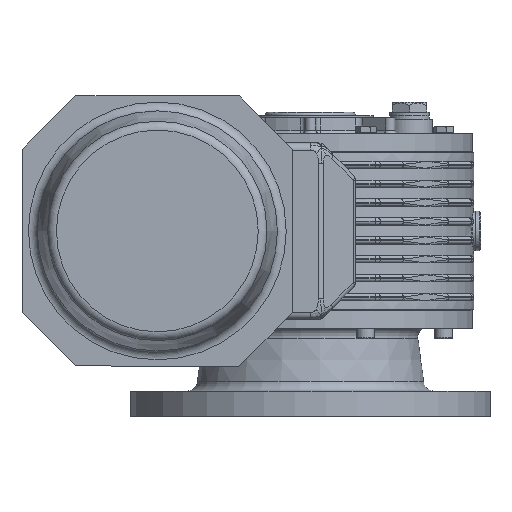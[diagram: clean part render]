
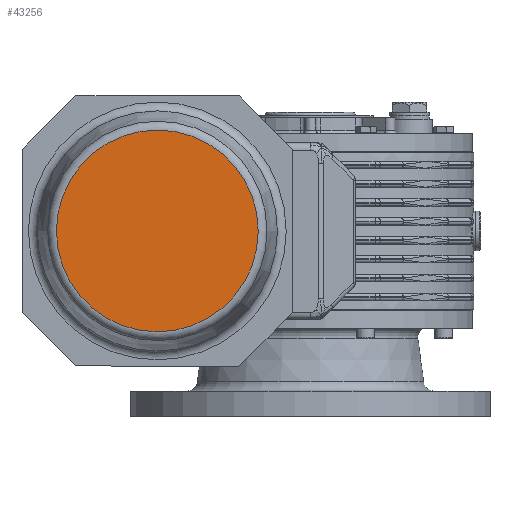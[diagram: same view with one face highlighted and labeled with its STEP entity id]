
A CAD part, left-side view. The second image highlights one B-rep face of the part: STEP entity #43256.
In plain terms, the highlighted planar face has unit normal (-1, 0, 0) as drawn and (1, 0, 0) by its records, which use the part's own axes.
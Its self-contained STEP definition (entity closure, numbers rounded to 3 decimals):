
#43233=CARTESIAN_POINT('',(265.0,0.0,55.983));
#43234=VERTEX_POINT('',#43233);
#43235=CARTESIAN_POINT('',(265.0,0.0,0.0));
#43236=DIRECTION('',(-1.0,0.0,0.0));
#43237=DIRECTION('',(0.0,0.0,-1.0));
#43238=AXIS2_PLACEMENT_3D('',#43235,#43236,#43237);
#43239=CIRCLE('',#43238,55.983);
#43240=EDGE_CURVE('',#43234,#43234,#43239,.T.);
#43248=CARTESIAN_POINT('',(265.0,0.0,30.0));
#43249=DIRECTION('',(1.0,0.0,0.0));
#43250=DIRECTION('',(0.0,0.0,-1.0));
#43251=AXIS2_PLACEMENT_3D('',#43248,#43249,#43250);
#43252=PLANE('',#43251);
#43253=ORIENTED_EDGE('',*,*,#43240,.F.);
#43254=EDGE_LOOP('',(#43253));
#43255=FACE_OUTER_BOUND('',#43254,.T.);
#43256=ADVANCED_FACE('',(#43255),#43252,.T.);
